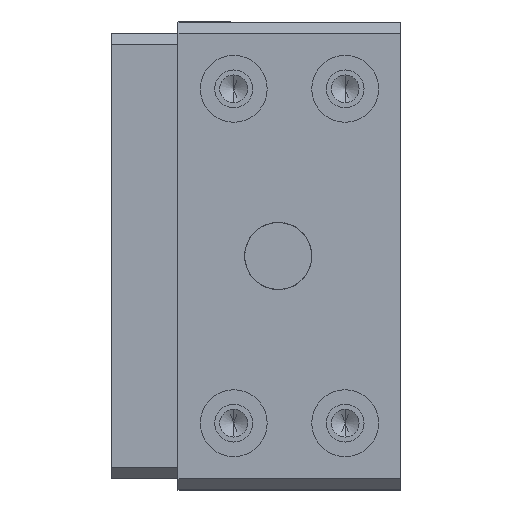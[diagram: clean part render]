
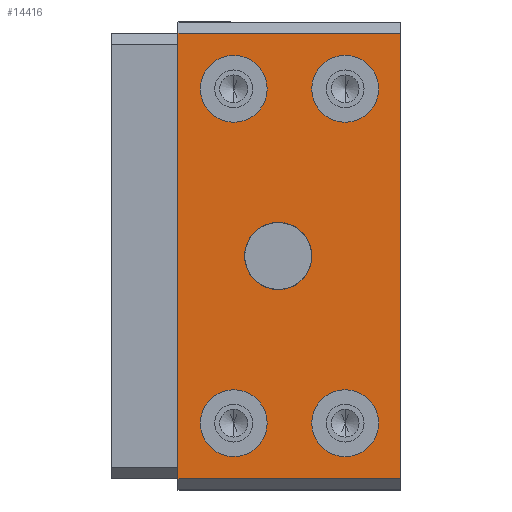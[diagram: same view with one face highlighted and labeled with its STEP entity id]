
A CAD part, left-side view. The second image highlights one B-rep face of the part: STEP entity #14416.
In plain terms, the highlighted planar face has unit normal (-1, 0, 0).
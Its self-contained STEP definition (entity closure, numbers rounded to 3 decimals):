
#44 = CIRCLE ( 'NONE', #575, 3.025 ) ;
#164 = CARTESIAN_POINT ( 'NONE',  ( 0., -5., -33. ) ) ;
#253 = ORIENTED_EDGE ( 'NONE', *, *, #26484, .F. ) ;
#368 = ORIENTED_EDGE ( 'NONE', *, *, #14560, .F. ) ;
#540 = FACE_BOUND ( 'NONE', #1769, .T. ) ;
#575 = AXIS2_PLACEMENT_3D ( 'NONE', #28007, #21003, #30769 ) ;
#769 = CARTESIAN_POINT ( 'NONE',  ( 0., 0., -41. ) ) ;
#829 = CARTESIAN_POINT ( 'NONE',  ( 0., -15., -33. ) ) ;
#830 = LINE ( 'NONE', #20451, #22682 ) ;
#1017 = DIRECTION ( 'NONE',  ( -1., 0., 0. ) ) ;
#1060 = VERTEX_POINT ( 'NONE', #12034 ) ;
#1185 = FACE_OUTER_BOUND ( 'NONE', #29334, .T. ) ;
#1656 = CARTESIAN_POINT ( 'NONE',  ( 0., 0., 0. ) ) ;
#1769 = EDGE_LOOP ( 'NONE', ( #25057, #18382 ) ) ;
#1840 = DIRECTION ( 'NONE',  ( -1., 0., 0. ) ) ;
#1891 = CARTESIAN_POINT ( 'NONE',  ( 0., -15., -6. ) ) ;
#1902 = CIRCLE ( 'NONE', #21049, 3.025 ) ;
#1972 = VERTEX_POINT ( 'NONE', #769 ) ;
#2068 = DIRECTION ( 'NONE',  ( -1., 0., 0. ) ) ;
#2932 = CARTESIAN_POINT ( 'NONE',  ( 0., -5., -9. ) ) ;
#3339 = CARTESIAN_POINT ( 'NONE',  ( 0., -20., 0. ) ) ;
#3443 = CARTESIAN_POINT ( 'NONE',  ( 0., -5., -39. ) ) ;
#3569 = VERTEX_POINT ( 'NONE', #20656 ) ;
#3645 = CIRCLE ( 'NONE', #15565, 3. ) ;
#3774 = CARTESIAN_POINT ( 'NONE',  ( 0., -5., -36. ) ) ;
#4423 = CARTESIAN_POINT ( 'NONE',  ( 0., -15., -36. ) ) ;
#4430 = VERTEX_POINT ( 'NONE', #13928 ) ;
#5180 = EDGE_CURVE ( 'NONE', #3569, #16858, #23561, .T. ) ;
#5276 = EDGE_CURVE ( 'NONE', #1972, #4430, #11696, .T. ) ;
#5824 = ORIENTED_EDGE ( 'NONE', *, *, #26530, .T. ) ;
#5931 = EDGE_LOOP ( 'NONE', ( #18524, #30386 ) ) ;
#5935 = DIRECTION ( 'NONE',  ( 0., 1., 0. ) ) ;
#6203 = CARTESIAN_POINT ( 'NONE',  ( 0., -5., -6. ) ) ;
#7417 = ORIENTED_EDGE ( 'NONE', *, *, #7694, .F. ) ;
#7672 = VERTEX_POINT ( 'NONE', #29577 ) ;
#7694 = EDGE_CURVE ( 'NONE', #17480, #17712, #20154, .T. ) ;
#8209 = ORIENTED_EDGE ( 'NONE', *, *, #26507, .F. ) ;
#8211 = CARTESIAN_POINT ( 'NONE',  ( 0., 0., -1. ) ) ;
#8560 = DIRECTION ( 'NONE',  ( -1., 0., 0. ) ) ;
#8698 = LINE ( 'NONE', #3339, #17106 ) ;
#8800 = EDGE_CURVE ( 'NONE', #24440, #27553, #17161, .T. ) ;
#9670 = DIRECTION ( 'NONE',  ( 0., 0., 1. ) ) ;
#10416 = FACE_BOUND ( 'NONE', #21777, .T. ) ;
#11630 = AXIS2_PLACEMENT_3D ( 'NONE', #16988, #14847, #9670 ) ;
#11696 = LINE ( 'NONE', #26457, #22037 ) ;
#11782 = EDGE_CURVE ( 'NONE', #21832, #31481, #16489, .T. ) ;
#11855 = CARTESIAN_POINT ( 'NONE',  ( 0., -9., -21. ) ) ;
#12034 = CARTESIAN_POINT ( 'NONE',  ( 0., -20., -41. ) ) ;
#12126 = CARTESIAN_POINT ( 'NONE',  ( 0., -5., -36. ) ) ;
#12459 = EDGE_LOOP ( 'NONE', ( #27866, #18075 ) ) ;
#12689 = ORIENTED_EDGE ( 'NONE', *, *, #5276, .F. ) ;
#13067 = AXIS2_PLACEMENT_3D ( 'NONE', #4423, #1840, #29259 ) ;
#13656 = FACE_BOUND ( 'NONE', #5931, .T. ) ;
#13840 = CARTESIAN_POINT ( 'NONE',  ( 0., -15., -6. ) ) ;
#13928 = CARTESIAN_POINT ( 'NONE',  ( 0., 0., -1. ) ) ;
#14130 = DIRECTION ( 'NONE',  ( 1., 0., 0. ) ) ;
#14416 = ADVANCED_FACE ( 'NONE', ( #22702, #540, #10416, #23989, #13656, #1185 ), #23354, .F. ) ;
#14560 = EDGE_CURVE ( 'NONE', #7672, #22760, #1902, .T. ) ;
#14847 = DIRECTION ( 'NONE',  ( -1., 0., 0. ) ) ;
#15090 = DIRECTION ( 'NONE',  ( 0., -1., 0. ) ) ;
#15173 = CARTESIAN_POINT ( 'NONE',  ( 0., -15., -9. ) ) ;
#15565 = AXIS2_PLACEMENT_3D ( 'NONE', #1891, #8560, #25882 ) ;
#16086 = DIRECTION ( 'NONE',  ( 0., 0., 1. ) ) ;
#16087 = AXIS2_PLACEMENT_3D ( 'NONE', #19342, #21742, #21903 ) ;
#16235 = CIRCLE ( 'NONE', #17796, 3. ) ;
#16312 = CIRCLE ( 'NONE', #11630, 3. ) ;
#16316 = DIRECTION ( 'NONE',  ( 0., 0., -1. ) ) ;
#16489 = CIRCLE ( 'NONE', #16993, 3. ) ;
#16577 = ORIENTED_EDGE ( 'NONE', *, *, #28170, .F. ) ;
#16856 = EDGE_CURVE ( 'NONE', #1972, #1060, #830, .T. ) ;
#16858 = VERTEX_POINT ( 'NONE', #2932 ) ;
#16988 = CARTESIAN_POINT ( 'NONE',  ( 0., -5., -6. ) ) ;
#16993 = AXIS2_PLACEMENT_3D ( 'NONE', #12126, #2068, #29180 ) ;
#17106 = VECTOR ( 'NONE', #16316, 1000. ) ;
#17161 = CIRCLE ( 'NONE', #21274, 3. ) ;
#17480 = VERTEX_POINT ( 'NONE', #28926 ) ;
#17712 = VERTEX_POINT ( 'NONE', #829 ) ;
#17796 = AXIS2_PLACEMENT_3D ( 'NONE', #3774, #18698, #28605 ) ;
#18075 = ORIENTED_EDGE ( 'NONE', *, *, #19010, .F. ) ;
#18382 = ORIENTED_EDGE ( 'NONE', *, *, #11782, .F. ) ;
#18524 = ORIENTED_EDGE ( 'NONE', *, *, #5180, .F. ) ;
#18687 = DIRECTION ( 'NONE',  ( 0., 0., -1. ) ) ;
#18698 = DIRECTION ( 'NONE',  ( -1., 0., 0. ) ) ;
#18744 = LINE ( 'NONE', #8211, #31665 ) ;
#19010 = EDGE_CURVE ( 'NONE', #27553, #24440, #3645, .T. ) ;
#19342 = CARTESIAN_POINT ( 'NONE',  ( 0., -15., -36. ) ) ;
#19486 = AXIS2_PLACEMENT_3D ( 'NONE', #6203, #1017, #16086 ) ;
#20154 = CIRCLE ( 'NONE', #16087, 3. ) ;
#20451 = CARTESIAN_POINT ( 'NONE',  ( 0., 0., -41. ) ) ;
#20656 = CARTESIAN_POINT ( 'NONE',  ( 0., -5., -3. ) ) ;
#21003 = DIRECTION ( 'NONE',  ( -1., 0., 0. ) ) ;
#21049 = AXIS2_PLACEMENT_3D ( 'NONE', #11855, #31835, #26931 ) ;
#21274 = AXIS2_PLACEMENT_3D ( 'NONE', #13840, #31383, #21593 ) ;
#21593 = DIRECTION ( 'NONE',  ( 0., 0., 1. ) ) ;
#21742 = DIRECTION ( 'NONE',  ( -1., 0., 0. ) ) ;
#21777 = EDGE_LOOP ( 'NONE', ( #16577, #7417 ) ) ;
#21832 = VERTEX_POINT ( 'NONE', #3443 ) ;
#21903 = DIRECTION ( 'NONE',  ( 0., 0., 1. ) ) ;
#22037 = VECTOR ( 'NONE', #26613, 1000. ) ;
#22682 = VECTOR ( 'NONE', #15090, 1000. ) ;
#22702 = FACE_BOUND ( 'NONE', #26891, .T. ) ;
#22760 = VERTEX_POINT ( 'NONE', #29369 ) ;
#23354 = PLANE ( 'NONE',  #23596 ) ;
#23359 = VERTEX_POINT ( 'NONE', #25992 ) ;
#23561 = CIRCLE ( 'NONE', #19486, 3. ) ;
#23596 = AXIS2_PLACEMENT_3D ( 'NONE', #1656, #14130, #18687 ) ;
#23989 = FACE_BOUND ( 'NONE', #12459, .T. ) ;
#24424 = CIRCLE ( 'NONE', #13067, 3. ) ;
#24440 = VERTEX_POINT ( 'NONE', #25389 ) ;
#25057 = ORIENTED_EDGE ( 'NONE', *, *, #30856, .F. ) ;
#25389 = CARTESIAN_POINT ( 'NONE',  ( 0., -15., -3. ) ) ;
#25882 = DIRECTION ( 'NONE',  ( 0., 0., 1. ) ) ;
#25992 = CARTESIAN_POINT ( 'NONE',  ( 0., -20., -1. ) ) ;
#26457 = CARTESIAN_POINT ( 'NONE',  ( 0., 0., 0. ) ) ;
#26484 = EDGE_CURVE ( 'NONE', #23359, #1060, #8698, .T. ) ;
#26507 = EDGE_CURVE ( 'NONE', #22760, #7672, #44, .T. ) ;
#26530 = EDGE_CURVE ( 'NONE', #23359, #4430, #18744, .T. ) ;
#26613 = DIRECTION ( 'NONE',  ( 0., 0., 1. ) ) ;
#26891 = EDGE_LOOP ( 'NONE', ( #8209, #368 ) ) ;
#26931 = DIRECTION ( 'NONE',  ( 0., 0., 1. ) ) ;
#27553 = VERTEX_POINT ( 'NONE', #15173 ) ;
#27866 = ORIENTED_EDGE ( 'NONE', *, *, #8800, .F. ) ;
#28007 = CARTESIAN_POINT ( 'NONE',  ( 0., -9., -21. ) ) ;
#28170 = EDGE_CURVE ( 'NONE', #17712, #17480, #24424, .T. ) ;
#28605 = DIRECTION ( 'NONE',  ( 0., 0., 1. ) ) ;
#28926 = CARTESIAN_POINT ( 'NONE',  ( 0., -15., -39. ) ) ;
#29180 = DIRECTION ( 'NONE',  ( 0., 0., 1. ) ) ;
#29259 = DIRECTION ( 'NONE',  ( 0., 0., 1. ) ) ;
#29334 = EDGE_LOOP ( 'NONE', ( #253, #5824, #12689, #29868 ) ) ;
#29369 = CARTESIAN_POINT ( 'NONE',  ( 0., -9., -17.975 ) ) ;
#29577 = CARTESIAN_POINT ( 'NONE',  ( 0., -9., -24.025 ) ) ;
#29868 = ORIENTED_EDGE ( 'NONE', *, *, #16856, .T. ) ;
#30386 = ORIENTED_EDGE ( 'NONE', *, *, #31890, .F. ) ;
#30769 = DIRECTION ( 'NONE',  ( 0., 0., 1. ) ) ;
#30856 = EDGE_CURVE ( 'NONE', #31481, #21832, #16235, .T. ) ;
#31383 = DIRECTION ( 'NONE',  ( -1., 0., 0. ) ) ;
#31481 = VERTEX_POINT ( 'NONE', #164 ) ;
#31665 = VECTOR ( 'NONE', #5935, 1000. ) ;
#31835 = DIRECTION ( 'NONE',  ( -1., 0., 0. ) ) ;
#31890 = EDGE_CURVE ( 'NONE', #16858, #3569, #16312, .T. ) ;
